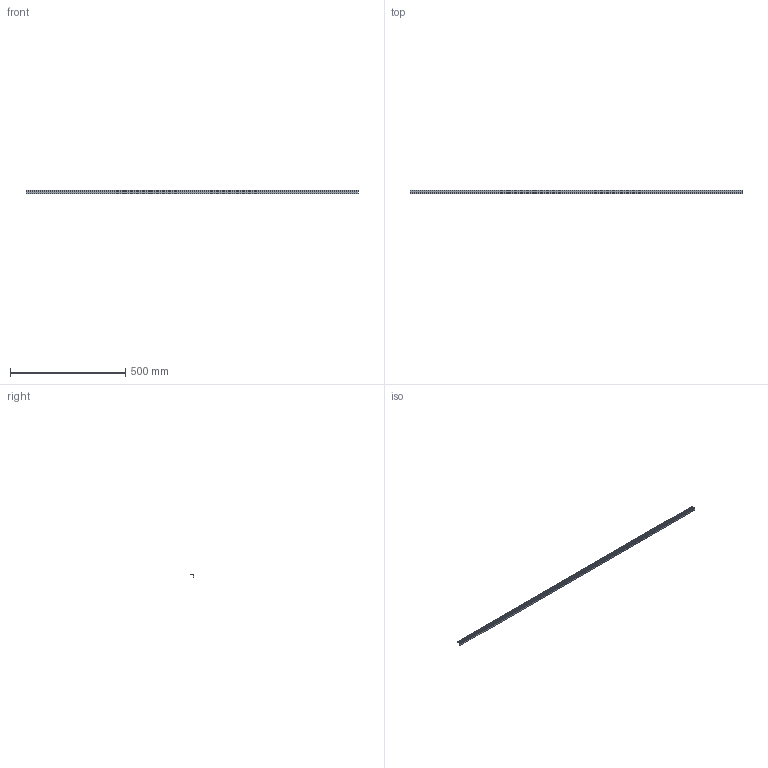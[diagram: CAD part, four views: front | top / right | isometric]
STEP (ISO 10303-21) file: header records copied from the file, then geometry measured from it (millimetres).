
FILE_DESCRIPTION( ( 'STEP AP214' ), '1' );
FILE_NAME( 'C:/Users/KOSH/Desktop/Same as task/Sliding folding/9275477.stp', '2021-07-01T13:41:34', ( '' ), ( '' ), ' ', 'PARTsolutions', ' ' );
FILE_SCHEMA( ( 'AUTOMOTIVE_DESIGN { 1 0 10303 214 1 1 1 1 }' ) );
Length unit declared in the file: millimetre
Products named in the file (1): _9275477
Bounding box: 1438 x 16 x 13.1 mm (x, y, z)
Volume: 69309.9 mm3; surface area: 97094.4 mm2
Topology: 1 solids, 1 shells, 38 faces, 108 edges, 72 vertices
Faces by surface type: plane 34, cylinder 4
Entity records: 1540 total; most frequent: CARTESIAN_POINT 219, ORIENTED_EDGE 216, DIRECTION 194, EDGE_CURVE 108, LINE 100, VECTOR 100, VERTEX_POINT 72, AXIS2_PLACEMENT_3D 47
